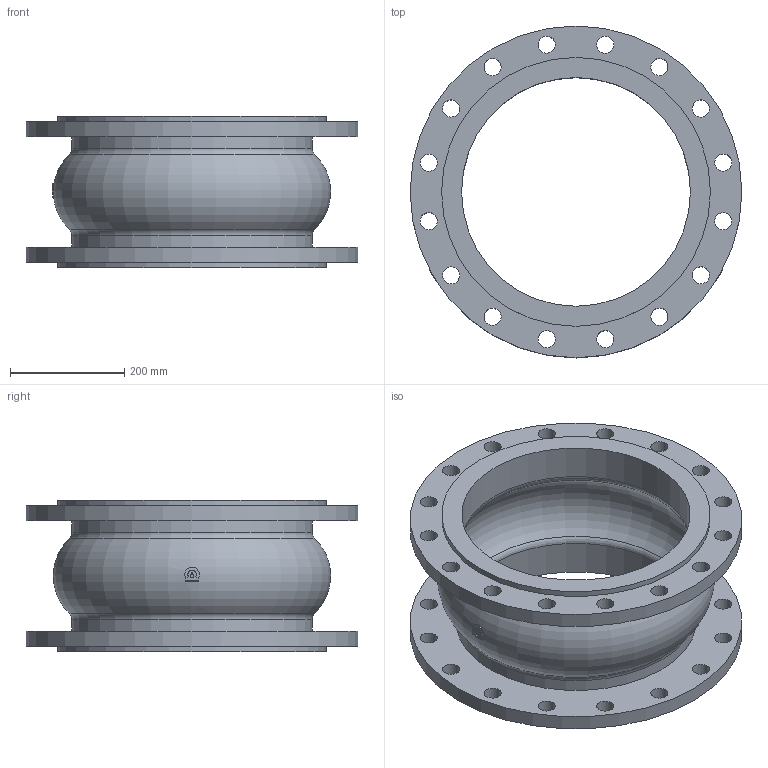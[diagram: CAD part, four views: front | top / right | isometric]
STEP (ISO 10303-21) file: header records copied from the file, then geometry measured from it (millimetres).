
FILE_DESCRIPTION(('STEP AP203'), '1');
FILE_NAME('Êîìïåíñàòîð KMS DN400 PN16_L265', '', ('UNSPECIFIED'), ('UNSPECIFIED'), 'ASCON STEP Converter 1.6', 'ASCON Math Kernel', '');
FILE_SCHEMA(('CONFIG_CONTROL_DESIGN'));
Length unit declared in the file: millimetre
Bounding box: 580 x 580 x 265 mm (x, y, z)
Volume: 10523551.6 mm3; surface area: 1362729.7 mm2
Topology: 1 solids, 1 shells, 69 faces, 172 edges, 112 vertices
Faces by surface type: cylinder 47, plane 13, torus 9
Full cylindrical faces by diameter (mm): 30 x32, 400 x2, 420 x2, 470 x2, 580 x2
Entity records: 3577 total; most frequent: CARTESIAN_POINT 1348, DIRECTION 334, ORIENTED_EDGE 252, EDGE_LOOP 188, AXIS2_PLACEMENT_3D 160, EDGE_CURVE 126, VERTEX_POINT 112, FACE_BOUND 96
